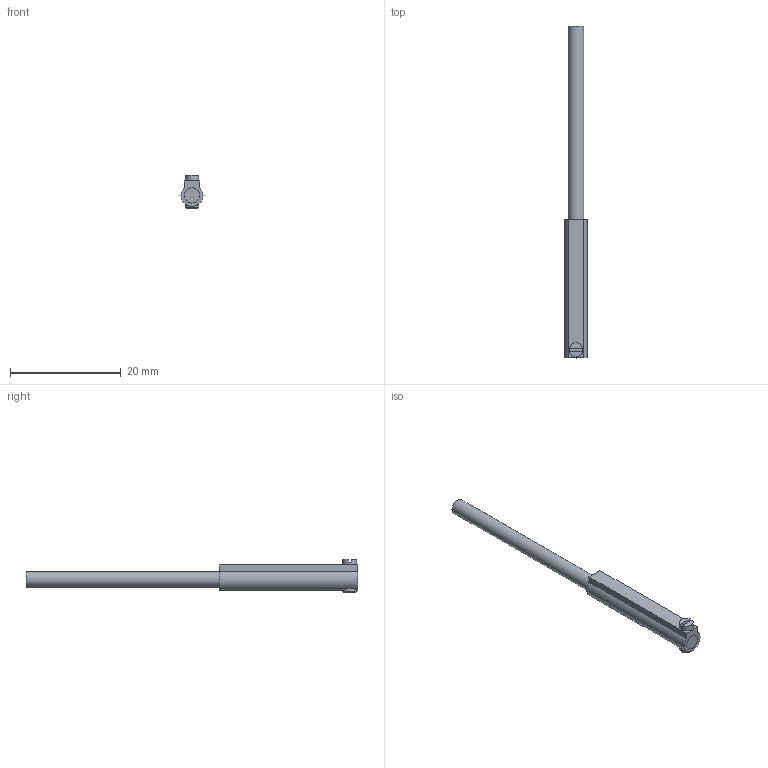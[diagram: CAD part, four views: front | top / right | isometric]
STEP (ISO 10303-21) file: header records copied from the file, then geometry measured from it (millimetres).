
FILE_DESCRIPTION(('FreeCAD Model'),'2;1');
FILE_NAME('Open CASCADE Shape Model','2025-09-16T14:06:22',(''),(''), 'Open CASCADE STEP processor 7.6','FreeCAD','Unknown');
FILE_SCHEMA(('AUTOMOTIVE_DESIGN { 1 0 10303 214 1 1 1 1 }'));
Length unit declared in the file: millimetre
Products named in the file (3): Unnamed; Anschluß; Sensor
Assembly tree (2 placements, depth 2):
  Unnamed
    Anschluß
    Sensor
Bounding box: 4 x 60 x 6 mm (x, y, z)
Volume: 744.7 mm3; surface area: 948.2 mm2
Topology: 2 solids, 2 shells, 18 faces, 35 edges, 23 vertices
Faces by surface type: plane 13, cylinder 4, cone 1
Full cylindrical faces by diameter (mm): 2.5 x2, 2.8 x1
Entity records: 628 total; most frequent: CARTESIAN_POINT 180, DIRECTION 88, ORIENTED_EDGE 70, EDGE_CURVE 35, AXIS2_PLACEMENT_3D 33, VERTEX_POINT 23, LINE 22, VECTOR 22
